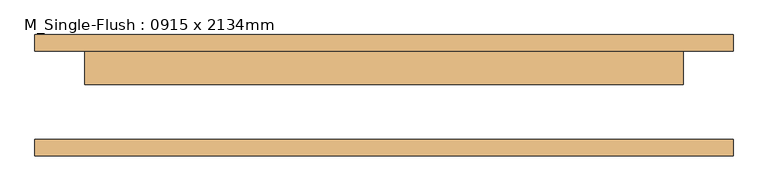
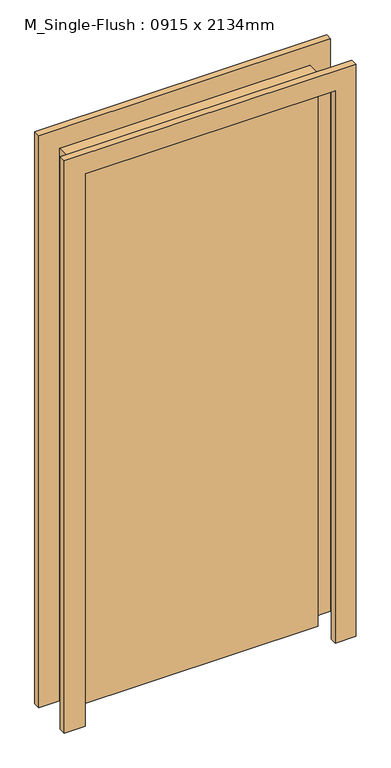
"""IFC4 building model written with IfcOpenShell, lengths in millimetres: door geometry, M_Single-Flush : 0915 x 2134mm."""

from ifc_helpers import new_model, si_unit, frame, origin, origin_with_axes, place, context, project, spatial, polyline, outline, extrude, source, transform, mapped, element, save


def m_single_flush_0915_x_2134mm_08e0827a(model_context):
    return source(origin(), model_context, "Body", "SweptSolid", [
        extrude(outline(polyline([(2210.0, -533.5), (0.0, -533.5), (0.0, -457.5), (2134.0, -457.5), (2134.0, 457.5), (0.0, 457.5), (0.0, 533.5), (2210.0, 533.5), (2210.0, -533.5)])), frame((0.0, 67.75, 0.0), z_axis=(0.0, 1.0, 0.0), x_axis=(0.0, 0.0, 1.0)), (0.0, 0.0, 1.0), 25.0),
        extrude(outline(polyline([(2210.0, 533.5), (2210.0, -533.5), (0.0, -533.5), (0.0, -457.5), (2134.0, -457.5), (2134.0, 457.5), (0.0, 457.5), (0.0, 533.5), (2210.0, 533.5)])), frame((0.0, -92.75, 0.0), z_axis=(0.0, 1.0, 0.0), x_axis=(0.0, 0.0, 1.0)), (0.0, 0.0, 1.0), 25.0),
        extrude(outline(polyline([(457.5, 16.75), (-457.5, 16.75), (-457.5, 67.75), (457.5, 67.75), (457.5, 16.75)])), origin_with_axes(), (0.0, 0.0, 1.0), 2134.0),
    ])


if __name__ == "__main__":
    model = new_model("IFC4")
    model_context = context("Model", 3, world=origin())
    ifc_project = project(units=[si_unit("LENGTHUNIT", "METRE", prefix="MILLI")], contexts=[model_context])
    site = spatial("IfcSite", under=ifc_project)
    building = spatial("IfcBuilding", under=site)
    placement = place(None, origin())
    m_single_flush_0915_x_2134mm_shape = m_single_flush_0915_x_2134mm_08e0827a(model_context)
    element("IfcDoor", 1, ObjectType="M_Single-Flush : 0915 x 2134mm", at=placement, inside=building, context=model_context, shape_type="MappedRepresentation", body=[
        mapped(m_single_flush_0915_x_2134mm_shape, transform((0.0, 0.0, 0.0), x_axis=(1.0, 0.0, 0.0), y_axis=(0.0, 1.0, 0.0), z_axis=(0.0, 0.0, 1.0))),
    ])
    save(model, "model.ifc")
